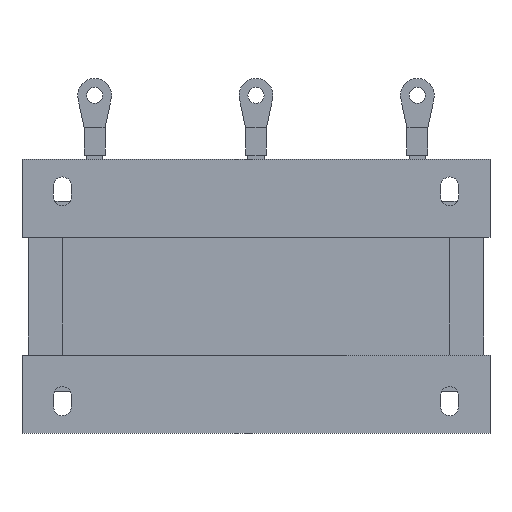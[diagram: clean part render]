
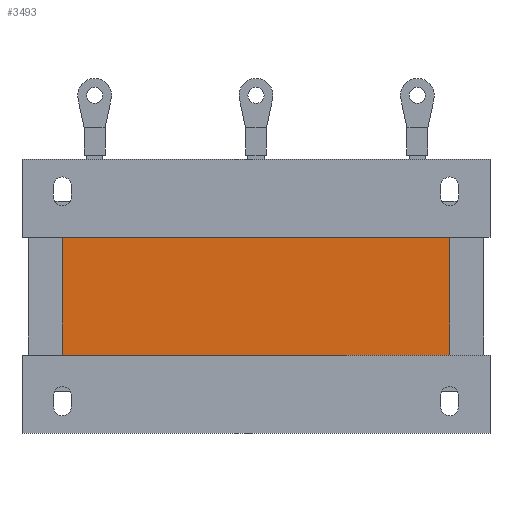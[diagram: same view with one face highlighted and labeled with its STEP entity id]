
A CAD part, front view. The second image highlights one B-rep face of the part: STEP entity #3493.
In plain terms, the highlighted planar face has unit normal (0, -1, 0).
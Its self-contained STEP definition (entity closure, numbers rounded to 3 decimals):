
#123=PLANE('',#3776);
#305=FACE_OUTER_BOUND('',#515,.T.);
#515=EDGE_LOOP('',(#2919,#2920,#2921,#2922));
#715=LINE('',#5093,#1149);
#740=LINE('',#5149,#1174);
#745=LINE('',#5160,#1179);
#871=LINE('',#5459,#1305);
#1149=VECTOR('',#4136,10.);
#1174=VECTOR('',#4183,10.);
#1179=VECTOR('',#4192,10.);
#1305=VECTOR('',#4444,10.);
#1643=VERTEX_POINT('',#5090);
#1644=VERTEX_POINT('',#5092);
#1663=VERTEX_POINT('',#5145);
#1664=VERTEX_POINT('',#5147);
#2003=EDGE_CURVE('',#1643,#1644,#715,.T.);
#2032=EDGE_CURVE('',#1664,#1663,#740,.T.);
#2037=EDGE_CURVE('',#1644,#1664,#745,.T.);
#2191=EDGE_CURVE('',#1663,#1643,#871,.T.);
#2919=ORIENTED_EDGE('',*,*,#2003,.F.);
#2920=ORIENTED_EDGE('',*,*,#2191,.F.);
#2921=ORIENTED_EDGE('',*,*,#2032,.F.);
#2922=ORIENTED_EDGE('',*,*,#2037,.F.);
#3493=ADVANCED_FACE('',(#305),#123,.F.);
#3776=AXIS2_PLACEMENT_3D('',#5460,#4445,#4446);
#4136=DIRECTION('',(1.,0.,0.));
#4183=DIRECTION('',(-1.,0.,0.));
#4192=DIRECTION('',(0.,0.,-1.));
#4444=DIRECTION('',(0.,0.,1.));
#4445=DIRECTION('center_axis',(0.,1.,0.));
#4446=DIRECTION('ref_axis',(0.,0.,1.));
#5090=CARTESIAN_POINT('',(-120.,2.,36.5));
#5092=CARTESIAN_POINT('',(120.,2.,36.5));
#5093=CARTESIAN_POINT('',(120.,2.,36.5));
#5145=CARTESIAN_POINT('',(-120.,2.,-36.5));
#5147=CARTESIAN_POINT('',(120.,2.,-36.5));
#5149=CARTESIAN_POINT('',(-120.,2.,-36.5));
#5160=CARTESIAN_POINT('',(120.,2.,18.25));
#5459=CARTESIAN_POINT('',(-120.,2.,-18.25));
#5460=CARTESIAN_POINT('Origin',(0.,2.,0.));
